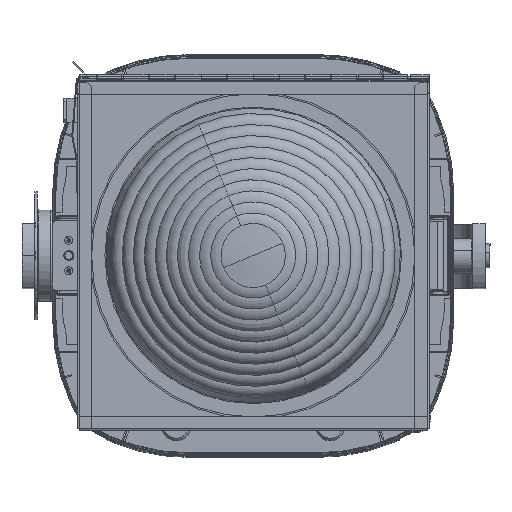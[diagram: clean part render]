
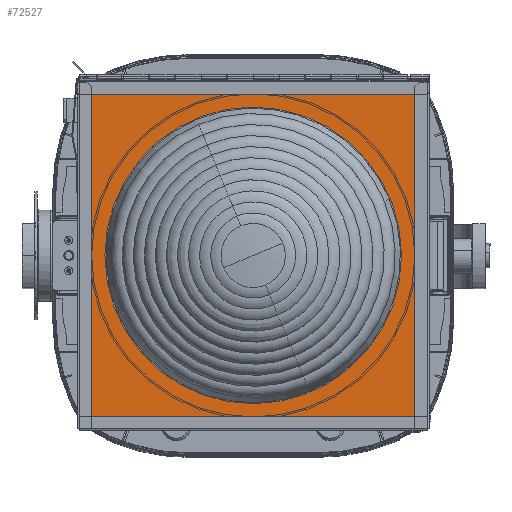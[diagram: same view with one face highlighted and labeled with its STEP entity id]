
A CAD part, top view. The second image highlights one B-rep face of the part: STEP entity #72527.
In plain terms, the highlighted planar face has unit normal (0, 0, 1).
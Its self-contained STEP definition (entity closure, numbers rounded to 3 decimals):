
#1584 = VERTEX_POINT ( 'NONE', #106360 ) ;
#1639 = VERTEX_POINT ( 'NONE', #10527 ) ;
#2491 = ORIENTED_EDGE ( 'NONE', *, *, #14401, .F. ) ;
#4379 = AXIS2_PLACEMENT_3D ( 'NONE', #47982, #20032, #58805 ) ;
#7322 = DIRECTION ( 'NONE',  ( 0., -1., 0. ) ) ;
#7774 = VECTOR ( 'NONE', #118527, 1000. ) ;
#9031 = CARTESIAN_POINT ( 'NONE',  ( -108.55, 108.1, 377.603 ) ) ;
#10527 = CARTESIAN_POINT ( 'NONE',  ( -108.55, -108., 377.603 ) ) ;
#10626 = VECTOR ( 'NONE', #16833, 1000. ) ;
#11830 = EDGE_CURVE ( 'NONE', #118540, #72691, #18560, .T. ) ;
#12436 = DIRECTION ( 'NONE',  ( 0., 0., 1. ) ) ;
#12460 = LINE ( 'NONE', #13090, #82815 ) ;
#13019 = EDGE_CURVE ( 'NONE', #119656, #40904, #72084, .T. ) ;
#13090 = CARTESIAN_POINT ( 'NONE',  ( -108.55, 108., 377.603 ) ) ;
#14401 = EDGE_CURVE ( 'NONE', #72691, #118540, #70566, .T. ) ;
#15625 = ORIENTED_EDGE ( 'NONE', *, *, #64132, .F. ) ;
#16530 = DIRECTION ( 'NONE',  ( 0., 0., 1. ) ) ;
#16833 = DIRECTION ( 'NONE',  ( 0., -1., 0. ) ) ;
#17491 = EDGE_LOOP ( 'NONE', ( #20123, #2491 ) ) ;
#18560 = CIRCLE ( 'NONE', #4379, 92.5 ) ;
#20032 = DIRECTION ( 'NONE',  ( 0., 0., 1. ) ) ;
#20123 = ORIENTED_EDGE ( 'NONE', *, *, #11830, .F. ) ;
#23533 = CARTESIAN_POINT ( 'NONE',  ( 108.55, 108., 377.603 ) ) ;
#24178 = ORIENTED_EDGE ( 'NONE', *, *, #104810, .T. ) ;
#26000 = PLANE ( 'NONE',  #64368 ) ;
#30764 = CARTESIAN_POINT ( 'NONE',  ( -108.55, -108.1, 377.603 ) ) ;
#30777 = CARTESIAN_POINT ( 'NONE',  ( 0., 0., 377.603 ) ) ;
#30795 = LINE ( 'NONE', #107691, #7774 ) ;
#33262 = DIRECTION ( 'NONE',  ( 0., 1., 0. ) ) ;
#35226 = CARTESIAN_POINT ( 'NONE',  ( 108.55, 108.1, 377.603 ) ) ;
#39332 = CARTESIAN_POINT ( 'NONE',  ( -108.55, 108., 377.603 ) ) ;
#40904 = VERTEX_POINT ( 'NONE', #49975 ) ;
#47982 = CARTESIAN_POINT ( 'NONE',  ( 0., 0., 377.603 ) ) ;
#49975 = CARTESIAN_POINT ( 'NONE',  ( 108.55, -108.1, 377.603 ) ) ;
#50730 = ORIENTED_EDGE ( 'NONE', *, *, #89818, .T. ) ;
#51776 = DIRECTION ( 'NONE',  ( 0., -1., 0. ) ) ;
#54310 = LINE ( 'NONE', #35226, #100634 ) ;
#58805 = DIRECTION ( 'NONE',  ( 1., 0., 0. ) ) ;
#59069 = DIRECTION ( 'NONE',  ( -1., 0., 0. ) ) ;
#59737 = ORIENTED_EDGE ( 'NONE', *, *, #13019, .T. ) ;
#59803 = EDGE_CURVE ( 'NONE', #1584, #59888, #54310, .T. ) ;
#59888 = VERTEX_POINT ( 'NONE', #23533 ) ;
#61503 = ORIENTED_EDGE ( 'NONE', *, *, #104865, .T. ) ;
#63506 = VERTEX_POINT ( 'NONE', #112671 ) ;
#64132 = EDGE_CURVE ( 'NONE', #119656, #1639, #71446, .T. ) ;
#64145 = FACE_OUTER_BOUND ( 'NONE', #72771, .T. ) ;
#64368 = AXIS2_PLACEMENT_3D ( 'NONE', #103494, #16530, #84430 ) ;
#66798 = ORIENTED_EDGE ( 'NONE', *, *, #94285, .F. ) ;
#67071 = LINE ( 'NONE', #95598, #94394 ) ;
#70566 = CIRCLE ( 'NONE', #121299, 92.5 ) ;
#71446 = LINE ( 'NONE', #30764, #123737 ) ;
#72084 = LINE ( 'NONE', #109564, #103713 ) ;
#72527 = ADVANCED_FACE ( 'NONE', ( #115528, #64145 ), #26000, .T. ) ;
#72691 = VERTEX_POINT ( 'NONE', #93177 ) ;
#72771 = EDGE_LOOP ( 'NONE', ( #24178, #15625, #59737, #61503, #66798, #110066, #89737, #50730 ) ) ;
#74002 = LINE ( 'NONE', #93629, #10626 ) ;
#74524 = CARTESIAN_POINT ( 'NONE',  ( -108.55, -108.1, 377.603 ) ) ;
#75357 = DIRECTION ( 'NONE',  ( 0., -1., 0. ) ) ;
#78386 = VERTEX_POINT ( 'NONE', #9031 ) ;
#82815 = VECTOR ( 'NONE', #51776, 1000. ) ;
#84430 = DIRECTION ( 'NONE',  ( 1., 0., 0. ) ) ;
#89737 = ORIENTED_EDGE ( 'NONE', *, *, #100877, .T. ) ;
#89818 = EDGE_CURVE ( 'NONE', #78386, #119067, #67071, .T. ) ;
#89855 = DIRECTION ( 'NONE',  ( 1., 0., 0. ) ) ;
#90489 = DIRECTION ( 'NONE',  ( 1., 0., 0. ) ) ;
#93177 = CARTESIAN_POINT ( 'NONE',  ( -92.5, 0., 377.603 ) ) ;
#93629 = CARTESIAN_POINT ( 'NONE',  ( 108.55, -108., 377.603 ) ) ;
#94285 = EDGE_CURVE ( 'NONE', #59888, #63506, #74002, .T. ) ;
#94394 = VECTOR ( 'NONE', #75357, 1000. ) ;
#95598 = CARTESIAN_POINT ( 'NONE',  ( -108.55, 108.1, 377.603 ) ) ;
#96469 = LINE ( 'NONE', #116843, #112830 ) ;
#100634 = VECTOR ( 'NONE', #7322, 1000. ) ;
#100877 = EDGE_CURVE ( 'NONE', #1584, #78386, #96469, .T. ) ;
#103494 = CARTESIAN_POINT ( 'NONE',  ( 109.75, -108., 377.603 ) ) ;
#103713 = VECTOR ( 'NONE', #90489, 1000. ) ;
#104810 = EDGE_CURVE ( 'NONE', #119067, #1639, #12460, .T. ) ;
#104865 = EDGE_CURVE ( 'NONE', #40904, #63506, #30795, .T. ) ;
#106360 = CARTESIAN_POINT ( 'NONE',  ( 108.55, 108.1, 377.603 ) ) ;
#107691 = CARTESIAN_POINT ( 'NONE',  ( 108.55, -108.1, 377.603 ) ) ;
#109458 = CARTESIAN_POINT ( 'NONE',  ( 92.5, 0., 377.603 ) ) ;
#109564 = CARTESIAN_POINT ( 'NONE',  ( -108.55, -108.1, 377.603 ) ) ;
#110066 = ORIENTED_EDGE ( 'NONE', *, *, #59803, .F. ) ;
#112671 = CARTESIAN_POINT ( 'NONE',  ( 108.55, -108., 377.603 ) ) ;
#112830 = VECTOR ( 'NONE', #59069, 1000. ) ;
#115528 = FACE_BOUND ( 'NONE', #17491, .T. ) ;
#116843 = CARTESIAN_POINT ( 'NONE',  ( 108.55, 108.1, 377.603 ) ) ;
#118527 = DIRECTION ( 'NONE',  ( 0., 1., 0. ) ) ;
#118540 = VERTEX_POINT ( 'NONE', #109458 ) ;
#119067 = VERTEX_POINT ( 'NONE', #39332 ) ;
#119656 = VERTEX_POINT ( 'NONE', #74524 ) ;
#121299 = AXIS2_PLACEMENT_3D ( 'NONE', #30777, #12436, #89855 ) ;
#123737 = VECTOR ( 'NONE', #33262, 1000. ) ;
